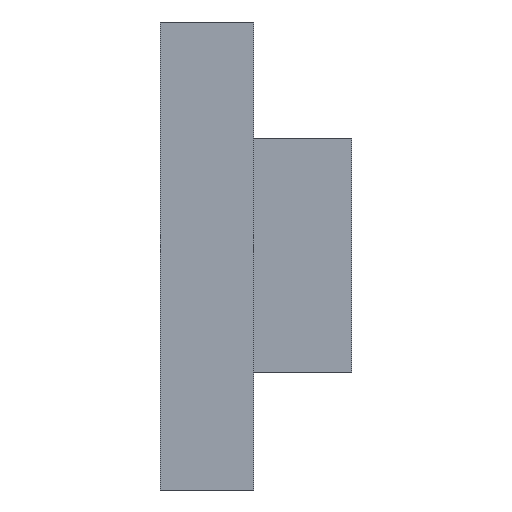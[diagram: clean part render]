
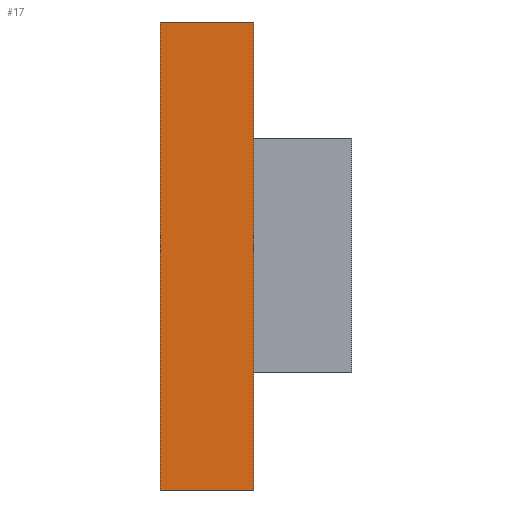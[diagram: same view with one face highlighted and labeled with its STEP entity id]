
A CAD part, left-side view. The second image highlights one B-rep face of the part: STEP entity #17.
In plain terms, the highlighted planar face has unit normal (-1, 0, 0).
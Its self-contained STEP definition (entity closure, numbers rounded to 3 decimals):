
#17 = ADVANCED_FACE('',(#18),#32,.F.);
#18 = FACE_BOUND('',#19,.F.);
#19 = EDGE_LOOP('',(#20,#55,#83,#111));
#20 = ORIENTED_EDGE('',*,*,#21,.F.);
#21 = EDGE_CURVE('',#22,#24,#26,.T.);
#22 = VERTEX_POINT('',#23);
#23 = CARTESIAN_POINT('',(-15.,-30.9,-34.5));
#24 = VERTEX_POINT('',#25);
#25 = CARTESIAN_POINT('',(-15.,-30.9,-30.5));
#26 = SURFACE_CURVE('',#27,(#31,#43),.PCURVE_S1.);
#27 = LINE('',#28,#29);
#28 = CARTESIAN_POINT('',(-15.,-30.9,-34.5));
#29 = VECTOR('',#30,1.);
#30 = DIRECTION('',(0.,0.,1.));
#31 = PCURVE('',#32,#37);
#32 = PLANE('',#33);
#33 = AXIS2_PLACEMENT_3D('',#34,#35,#36);
#34 = CARTESIAN_POINT('',(-15.,-30.9,-34.5));
#35 = DIRECTION('',(1.,0.,-0.));
#36 = DIRECTION('',(0.,0.,1.));
#37 = DEFINITIONAL_REPRESENTATION('',(#38),#42);
#38 = LINE('',#39,#40);
#39 = CARTESIAN_POINT('',(0.,0.));
#40 = VECTOR('',#41,1.);
#41 = DIRECTION('',(1.,0.));
#42 = ( GEOMETRIC_REPRESENTATION_CONTEXT(2) 
PARAMETRIC_REPRESENTATION_CONTEXT() REPRESENTATION_CONTEXT('2D SPACE',''
  ) );
#43 = PCURVE('',#44,#49);
#44 = PLANE('',#45);
#45 = AXIS2_PLACEMENT_3D('',#46,#47,#48);
#46 = CARTESIAN_POINT('',(-15.,-30.9,-34.5));
#47 = DIRECTION('',(-0.,1.,0.));
#48 = DIRECTION('',(0.,0.,1.));
#49 = DEFINITIONAL_REPRESENTATION('',(#50),#54);
#50 = LINE('',#51,#52);
#51 = CARTESIAN_POINT('',(0.,0.));
#52 = VECTOR('',#53,1.);
#53 = DIRECTION('',(1.,0.));
#54 = ( GEOMETRIC_REPRESENTATION_CONTEXT(2) 
PARAMETRIC_REPRESENTATION_CONTEXT() REPRESENTATION_CONTEXT('2D SPACE',''
  ) );
#55 = ORIENTED_EDGE('',*,*,#56,.T.);
#56 = EDGE_CURVE('',#22,#57,#59,.T.);
#57 = VERTEX_POINT('',#58);
#58 = CARTESIAN_POINT('',(-15.,-30.1,-34.5));
#59 = SURFACE_CURVE('',#60,(#64,#71),.PCURVE_S1.);
#60 = LINE('',#61,#62);
#61 = CARTESIAN_POINT('',(-15.,-30.9,-34.5));
#62 = VECTOR('',#63,1.);
#63 = DIRECTION('',(-0.,1.,0.));
#64 = PCURVE('',#32,#65);
#65 = DEFINITIONAL_REPRESENTATION('',(#66),#70);
#66 = LINE('',#67,#68);
#67 = CARTESIAN_POINT('',(0.,0.));
#68 = VECTOR('',#69,1.);
#69 = DIRECTION('',(0.,-1.));
#70 = ( GEOMETRIC_REPRESENTATION_CONTEXT(2) 
PARAMETRIC_REPRESENTATION_CONTEXT() REPRESENTATION_CONTEXT('2D SPACE',''
  ) );
#71 = PCURVE('',#72,#77);
#72 = PLANE('',#73);
#73 = AXIS2_PLACEMENT_3D('',#74,#75,#76);
#74 = CARTESIAN_POINT('',(-15.,-30.9,-34.5));
#75 = DIRECTION('',(0.,0.,1.));
#76 = DIRECTION('',(1.,0.,-0.));
#77 = DEFINITIONAL_REPRESENTATION('',(#78),#82);
#78 = LINE('',#79,#80);
#79 = CARTESIAN_POINT('',(0.,0.));
#80 = VECTOR('',#81,1.);
#81 = DIRECTION('',(0.,1.));
#82 = ( GEOMETRIC_REPRESENTATION_CONTEXT(2) 
PARAMETRIC_REPRESENTATION_CONTEXT() REPRESENTATION_CONTEXT('2D SPACE',''
  ) );
#83 = ORIENTED_EDGE('',*,*,#84,.T.);
#84 = EDGE_CURVE('',#57,#85,#87,.T.);
#85 = VERTEX_POINT('',#86);
#86 = CARTESIAN_POINT('',(-15.,-30.1,-30.5));
#87 = SURFACE_CURVE('',#88,(#92,#99),.PCURVE_S1.);
#88 = LINE('',#89,#90);
#89 = CARTESIAN_POINT('',(-15.,-30.1,-34.5));
#90 = VECTOR('',#91,1.);
#91 = DIRECTION('',(0.,0.,1.));
#92 = PCURVE('',#32,#93);
#93 = DEFINITIONAL_REPRESENTATION('',(#94),#98);
#94 = LINE('',#95,#96);
#95 = CARTESIAN_POINT('',(0.,-0.8));
#96 = VECTOR('',#97,1.);
#97 = DIRECTION('',(1.,0.));
#98 = ( GEOMETRIC_REPRESENTATION_CONTEXT(2) 
PARAMETRIC_REPRESENTATION_CONTEXT() REPRESENTATION_CONTEXT('2D SPACE',''
  ) );
#99 = PCURVE('',#100,#105);
#100 = PLANE('',#101);
#101 = AXIS2_PLACEMENT_3D('',#102,#103,#104);
#102 = CARTESIAN_POINT('',(-15.,-30.1,-34.5));
#103 = DIRECTION('',(-0.,1.,0.));
#104 = DIRECTION('',(0.,0.,1.));
#105 = DEFINITIONAL_REPRESENTATION('',(#106),#110);
#106 = LINE('',#107,#108);
#107 = CARTESIAN_POINT('',(0.,0.));
#108 = VECTOR('',#109,1.);
#109 = DIRECTION('',(1.,0.));
#110 = ( GEOMETRIC_REPRESENTATION_CONTEXT(2) 
PARAMETRIC_REPRESENTATION_CONTEXT() REPRESENTATION_CONTEXT('2D SPACE',''
  ) );
#111 = ORIENTED_EDGE('',*,*,#112,.F.);
#112 = EDGE_CURVE('',#24,#85,#113,.T.);
#113 = SURFACE_CURVE('',#114,(#118,#125),.PCURVE_S1.);
#114 = LINE('',#115,#116);
#115 = CARTESIAN_POINT('',(-15.,-30.9,-30.5));
#116 = VECTOR('',#117,1.);
#117 = DIRECTION('',(-0.,1.,0.));
#118 = PCURVE('',#32,#119);
#119 = DEFINITIONAL_REPRESENTATION('',(#120),#124);
#120 = LINE('',#121,#122);
#121 = CARTESIAN_POINT('',(4.,0.));
#122 = VECTOR('',#123,1.);
#123 = DIRECTION('',(0.,-1.));
#124 = ( GEOMETRIC_REPRESENTATION_CONTEXT(2) 
PARAMETRIC_REPRESENTATION_CONTEXT() REPRESENTATION_CONTEXT('2D SPACE',''
  ) );
#125 = PCURVE('',#126,#131);
#126 = PLANE('',#127);
#127 = AXIS2_PLACEMENT_3D('',#128,#129,#130);
#128 = CARTESIAN_POINT('',(-15.,-30.9,-30.5));
#129 = DIRECTION('',(0.,0.,1.));
#130 = DIRECTION('',(1.,0.,-0.));
#131 = DEFINITIONAL_REPRESENTATION('',(#132),#136);
#132 = LINE('',#133,#134);
#133 = CARTESIAN_POINT('',(0.,0.));
#134 = VECTOR('',#135,1.);
#135 = DIRECTION('',(0.,1.));
#136 = ( GEOMETRIC_REPRESENTATION_CONTEXT(2) 
PARAMETRIC_REPRESENTATION_CONTEXT() REPRESENTATION_CONTEXT('2D SPACE',''
  ) );
